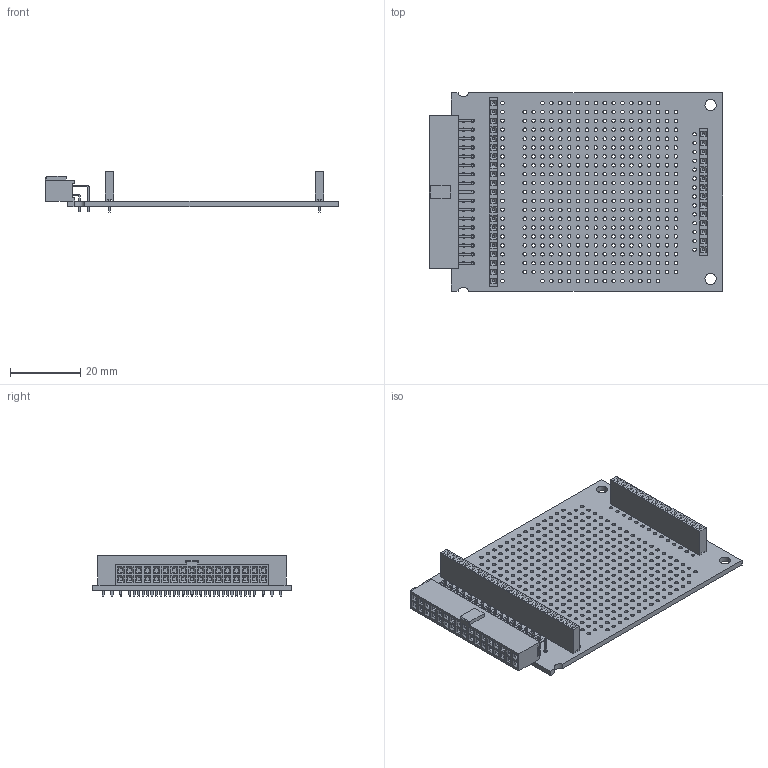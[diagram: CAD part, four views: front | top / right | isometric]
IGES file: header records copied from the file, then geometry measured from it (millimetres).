
Start section:  PTC IGES file: cu_mxp_protoboard.igs
Global section: file name: cu_mxp_protoboard.igs; native system: Pro/ENGINEER by Parametric Technology Corporation; preprocessor: 2011490; author: jbuhisan; organization: Unknown; date: 20130813.115945; units: inch
Bounding box: 83.72 x 56.64 x 11.6 mm (x, y, z)
Surface area: 16254.9 mm2 (no closed solid volume)
Topology: 0 solids, 0 shells, 2233 faces, 11998 edges, 11998 vertices
Faces by surface type: bspline 1211, revolution 1022
